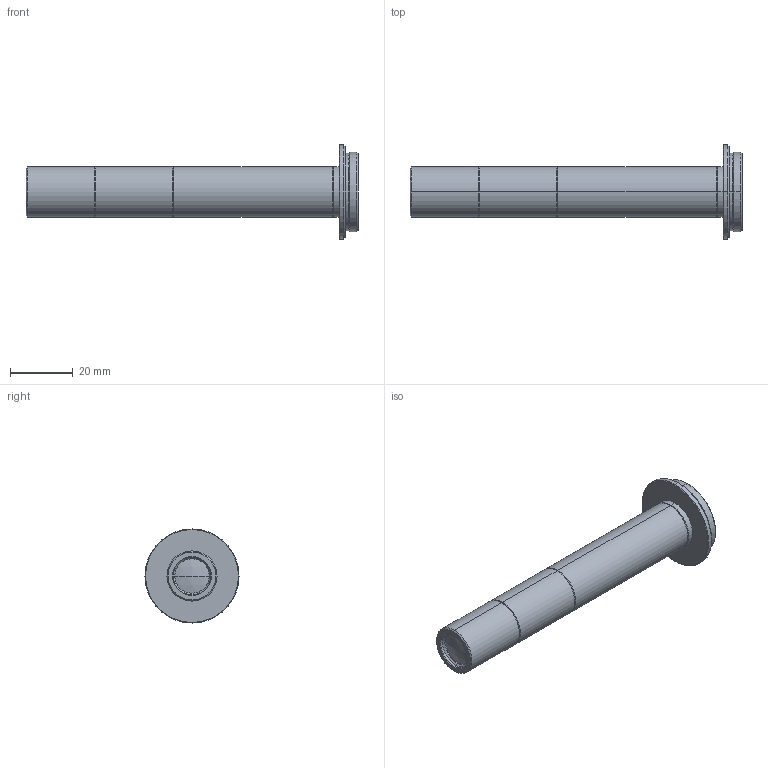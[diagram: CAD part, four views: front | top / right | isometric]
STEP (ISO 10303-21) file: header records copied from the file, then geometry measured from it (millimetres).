
FILE_DESCRIPTION (( 'STEP AP203' ), '1' );
FILE_NAME ('NT15(VS-MC1.5-65).STEP', '2020-08-05T07:42:22', ( '' ), ( '' ), 'SwSTEP 2.0', 'SolidWorks 2020', '' );
FILE_SCHEMA (( 'CONFIG_CONTROL_DESIGN' ));
Length unit declared in the file: millimetre
Products named in the file (1): NT15(VS-MC1.5-65)
Bounding box: 105.91 x 30 x 30 mm (x, y, z)
Volume: 11598.5 mm3; surface area: 10809 mm2
Topology: 1 solids, 1 shells, 97 faces, 196 edges, 112 vertices
Faces by surface type: cone 46, cylinder 36, plane 11, sphere 4
Entity records: 2593 total; most frequent: DIRECTION 506, CARTESIAN_POINT 406, ORIENTED_EDGE 392, AXIS2_PLACEMENT_3D 212, EDGE_CURVE 196, CIRCLE 114, VERTEX_POINT 112, EDGE_LOOP 108
